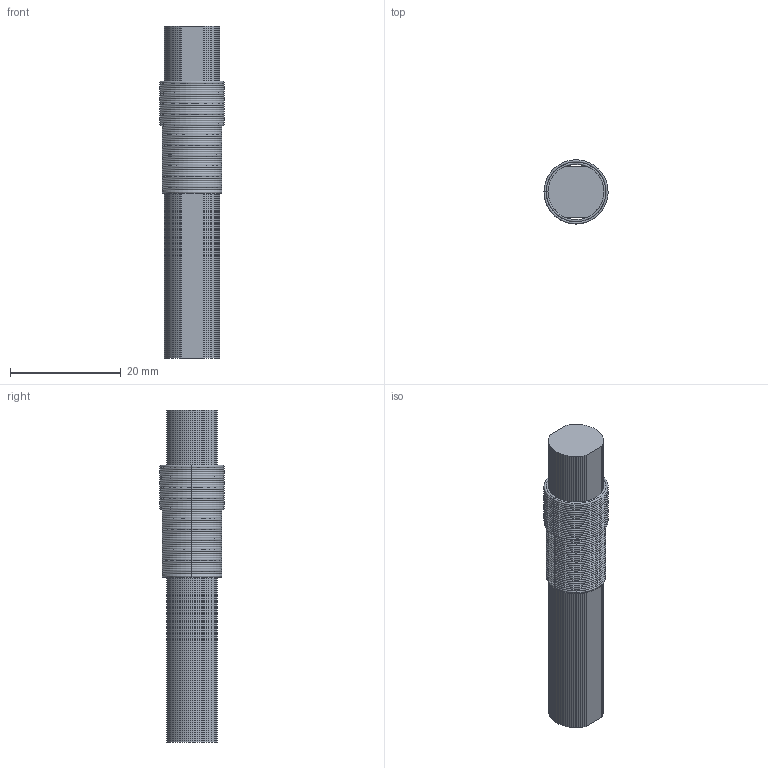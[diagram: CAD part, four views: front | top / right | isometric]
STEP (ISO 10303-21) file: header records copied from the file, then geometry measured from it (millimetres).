
FILE_DESCRIPTION (( 'STEP AP214' ), '1' );
FILE_NAME ('DCF_Antenne mit Wicklung 10x60', '', ( '' ), ( '' ), 'STEP 3.0', 'TARGET 3001!', '' );
FILE_SCHEMA (( 'AUTOMOTIVE_DESIGN' ));
Length unit declared in the file: millimetre
Products named in the file (1): GEH1
Bounding box: 11.59 x 11.58 x 60 mm (x, y, z)
Volume: 4869.3 mm3; surface area: 5020.9 mm2
Topology: 72 solids, 72 shells, 311 faces, 501 edges, 334 vertices
Faces by surface type: plane 240, torus 71
Entity records: 5562 total; most frequent: ORIENTED_EDGE 860, DIRECTION 601, CARTESIAN_POINT 548, EDGE_CURVE 430, EDGE_LOOP 382, FACE_OUTER_BOUND 382, VERTEX_POINT 334, AXIS2_PLACEMENT_3D 312
